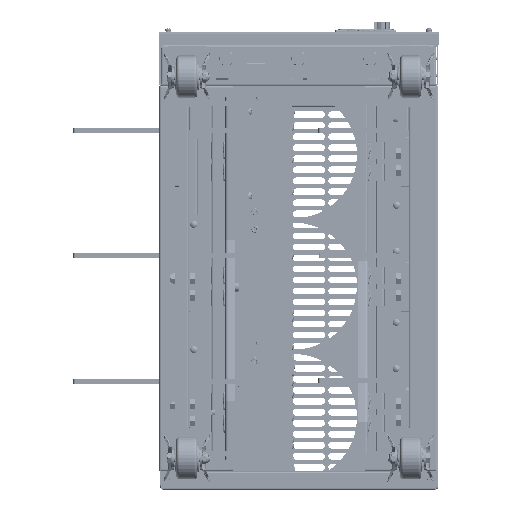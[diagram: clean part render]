
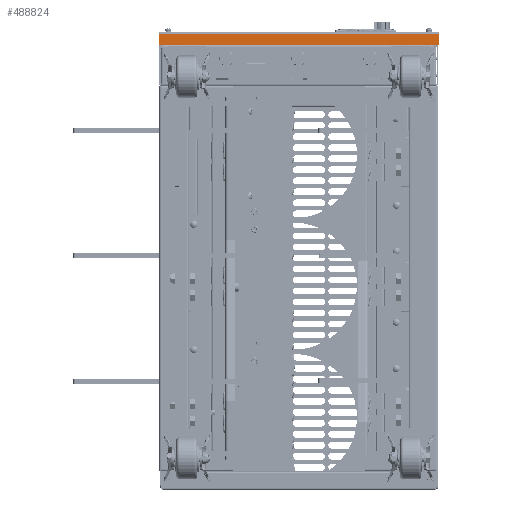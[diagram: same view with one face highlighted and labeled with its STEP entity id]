
A CAD part, front view. The second image highlights one B-rep face of the part: STEP entity #488824.
In plain terms, the highlighted planar face has unit normal (0, -1, 0).
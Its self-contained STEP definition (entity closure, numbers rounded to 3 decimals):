
#488785=DIRECTION('',(0.,0.,-1.));
#488786=VECTOR('',#488785,12.8);
#488787=CARTESIAN_POINT('',(165.,-244.5,14.5));
#488788=LINE('',#488787,#488786);
#488789=DIRECTION('',(-1.,0.,0.));
#488790=VECTOR('',#488789,330.);
#488791=CARTESIAN_POINT('',(165.,-244.5,1.7));
#488792=LINE('',#488791,#488790);
#488793=DIRECTION('',(0.,0.,1.));
#488794=VECTOR('',#488793,12.8);
#488795=CARTESIAN_POINT('',(-165.,-244.5,1.7));
#488796=LINE('',#488795,#488794);
#488797=DIRECTION('',(1.,0.,0.));
#488798=VECTOR('',#488797,330.);
#488799=CARTESIAN_POINT('',(-165.,-244.5,14.5));
#488800=LINE('',#488799,#488798);
#488801=CARTESIAN_POINT('',(165.,-244.5,14.5));
#488802=CARTESIAN_POINT('',(165.,-244.5,1.7));
#488803=VERTEX_POINT('',#488801);
#488804=VERTEX_POINT('',#488802);
#488805=CARTESIAN_POINT('',(-165.,-244.5,1.7));
#488806=VERTEX_POINT('',#488805);
#488807=CARTESIAN_POINT('',(-165.,-244.5,14.5));
#488808=VERTEX_POINT('',#488807);
#488809=CARTESIAN_POINT('',(0.,-244.5,8.1));
#488810=DIRECTION('',(0.,1.,0.));
#488811=DIRECTION('',(1.,0.,0.));
#488812=AXIS2_PLACEMENT_3D('',#488809,#488810,#488811);
#488813=PLANE('',#488812);
#488815=ORIENTED_EDGE('',*,*,#488814,.T.);
#488817=ORIENTED_EDGE('',*,*,#488816,.T.);
#488819=ORIENTED_EDGE('',*,*,#488818,.T.);
#488821=ORIENTED_EDGE('',*,*,#488820,.T.);
#488822=EDGE_LOOP('',(#488815,#488817,#488819,#488821));
#488823=FACE_OUTER_BOUND('',#488822,.F.);
#488824=ADVANCED_FACE('',(#488823),#488813,.F.);
#488814=EDGE_CURVE('',#488803,#488804,#488788,.T.);
#488816=EDGE_CURVE('',#488804,#488806,#488792,.T.);
#488818=EDGE_CURVE('',#488806,#488808,#488796,.T.);
#488820=EDGE_CURVE('',#488808,#488803,#488800,.T.);
